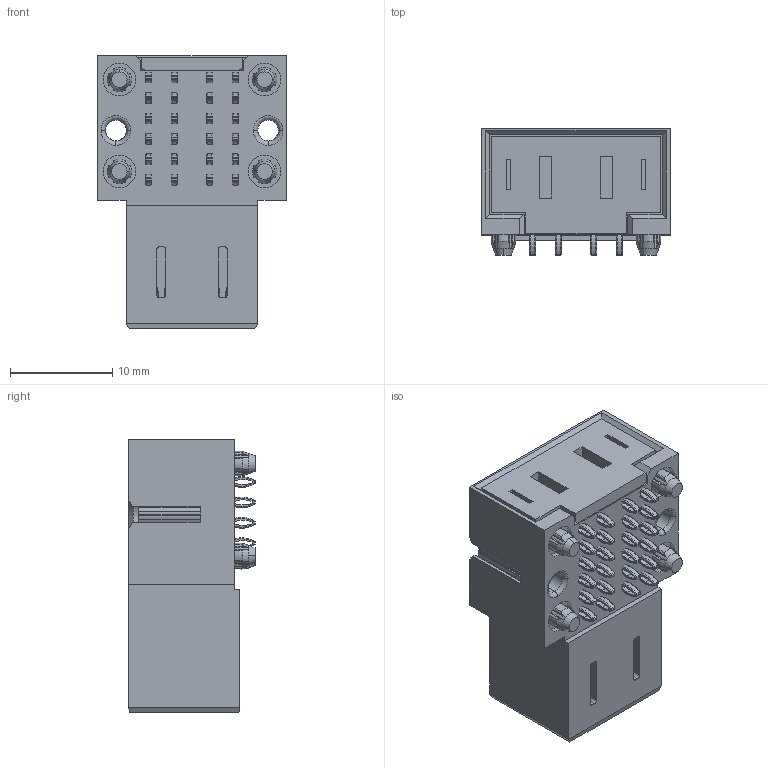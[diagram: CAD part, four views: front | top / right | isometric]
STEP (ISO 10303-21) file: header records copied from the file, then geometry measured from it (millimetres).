
FILE_DESCRIPTION (( 'STEP AP203' ), '1' );
FILE_NAME ('9396-4P02B7PPA.STEP', '2018-01-18T07:19:55', ( '' ), ( '' ), 'SwSTEP 2.0', 'SolidWorks 2011', '' );
FILE_SCHEMA (( 'CONFIG_CONTROL_DESIGN' ));
Length unit declared in the file: millimetre
Products named in the file (6): 9396-4P02B7PPA; 9395 母端Power pin 1-1; 9395-4A03S25D08NG1B01-1; 塑膠後蓋母端_Default-1; 特制螺母-1; 9395 母端Power pin 2-1
Assembly tree (8 placements, depth 2):
  9396-4P02B7PPA
    9395-4A03S25D08NG1B01-1
    特制螺母-1  x2
    9395 母端Power pin 1-1  x2
    9395 母端Power pin 2-1  x2
    塑膠後蓋母端_Default-1
Bounding box: 18.5 x 12.4 x 26.72 mm (x, y, z)
Volume: 3741.1 mm3; surface area: 3902.4 mm2
Topology: 40 solids, 40 shells, 1941 faces, 4815 edges, 2927 vertices
Faces by surface type: plane 726, cylinder 716, bspline 434, cone 65
Entity records: 40798 total; most frequent: CARTESIAN_POINT 11379, ORIENTED_EDGE 6208, DIRECTION 5821, EDGE_CURVE 3104, AXIS2_PLACEMENT_3D 2034, VERTEX_POINT 1931, LINE 1753, VECTOR 1753
